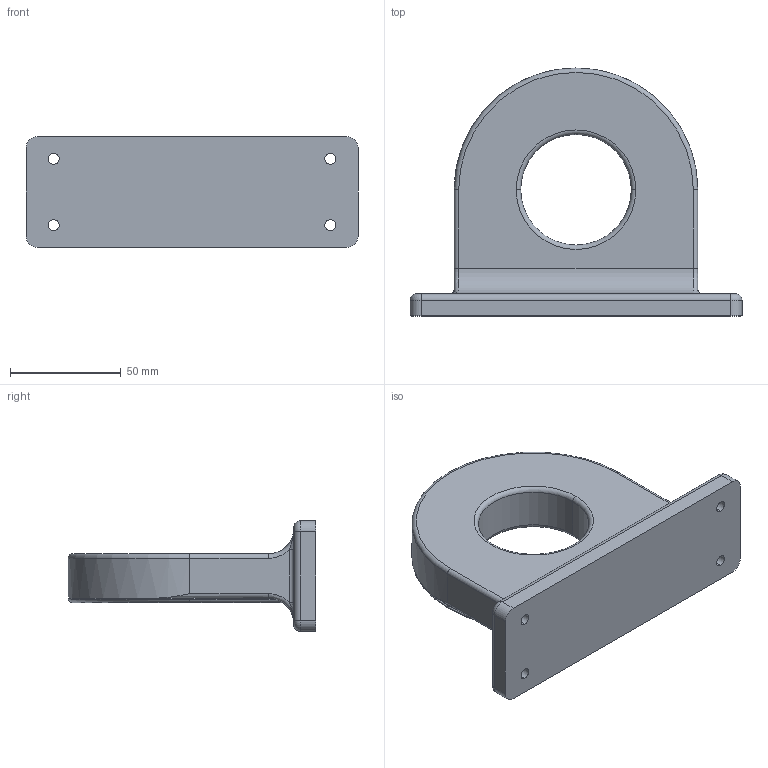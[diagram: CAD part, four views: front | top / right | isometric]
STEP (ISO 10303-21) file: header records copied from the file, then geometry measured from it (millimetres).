
FILE_DESCRIPTION (( 'STEP AP203' ), '1' );
FILE_NAME ('OC-3.STEP', '2016-11-15T10:24:18', ( '' ), ( '' ), 'SwSTEP 2.0', 'SolidWorks 2016', '' );
FILE_SCHEMA (( 'CONFIG_CONTROL_DESIGN' ));
Length unit declared in the file: millimetre
Products named in the file (1): OC-3
Bounding box: 150 x 112 x 50 mm (x, y, z)
Volume: 246478.2 mm3; surface area: 55522.7 mm2
Topology: 2 solids, 2 shells, 70 faces, 170 edges, 100 vertices
Faces by surface type: cylinder 32, torus 18, plane 12, bspline 8
Entity records: 2733 total; most frequent: CARTESIAN_POINT 1019, DIRECTION 362, ORIENTED_EDGE 332, EDGE_CURVE 166, AXIS2_PLACEMENT_3D 153, VERTEX_POINT 100, CIRCLE 90, EDGE_LOOP 82
